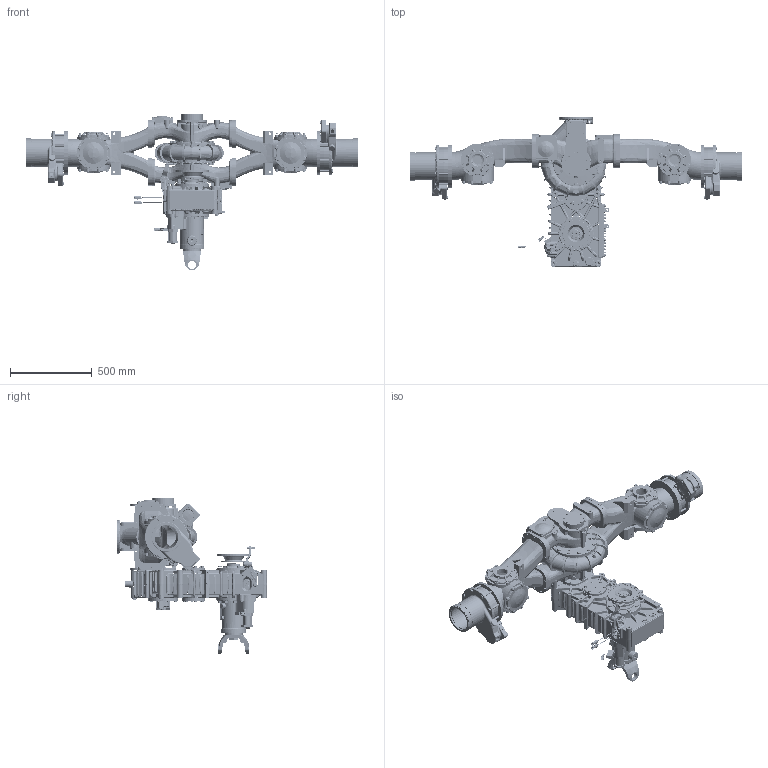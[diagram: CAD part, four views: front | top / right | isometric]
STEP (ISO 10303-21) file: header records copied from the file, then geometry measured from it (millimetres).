
FILE_DESCRIPTION((''),'2;1');
FILE_NAME('DLD2304_SW0003','2020-08-21T',('ssullivan'),(''),'PRO/ENGINEER BY PARAMETRIC TECHNOLOGY CORPORATION, 2013150','PRO/ENGINEER BY PARAMETRIC TECHNOLOGY CORPORATION, 2013150','');
FILE_SCHEMA(('CONFIG_CONTROL_DESIGN'));
Products named in the file (1): DLD2304_SW0003
Bounding box: 2032 x 921.88 x 960.6 mm (x, y, z)
Surface area: 7257476.2 mm2 (no closed solid volume)
Topology: 0 solids, 511 shells, 10604 faces, 31226 edges, 20321 vertices
Faces by surface type: plane 2949, cylinder 2726, bspline 2541, cone 1549, torus 691, sphere 146, extrusion 2
Entity records: 514645 total; most frequent: CARTESIAN_POINT 258957, ORIENTED_EDGE 52797, DIRECTION 48123, EDGE_CURVE 31154, VERTEX_POINT 20321, AXIS2_PLACEMENT_3D 19052, EDGE_LOOP 11676, CIRCLE 10991
